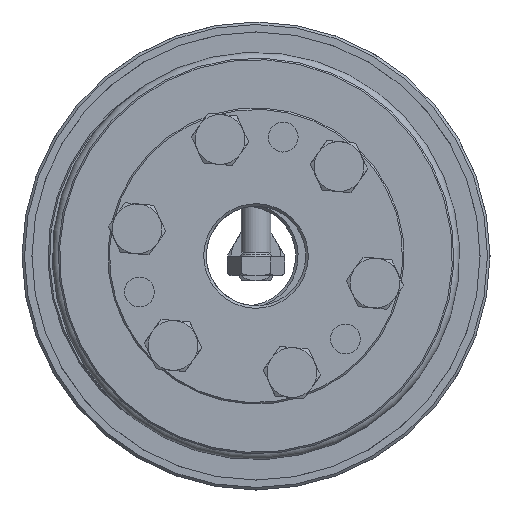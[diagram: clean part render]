
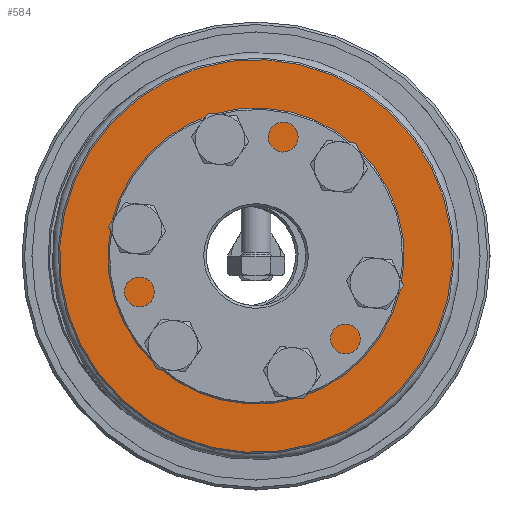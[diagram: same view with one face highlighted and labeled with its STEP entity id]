
A CAD part, left-side view. The second image highlights one B-rep face of the part: STEP entity #584.
In plain terms, the highlighted planar face has unit normal (-1, 0, 0) as drawn and (1, 0, 0) by its records, which use the part's own axes.
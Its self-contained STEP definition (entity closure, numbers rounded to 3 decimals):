
#584 = ADVANCED_FACE( 'NONE', ( #1039, #1040, #1041, #1042, #1043, #1044, #1045, #1046 ), #1047, .F. );
#1039 = FACE_OUTER_BOUND( '', #1805, .T. );
#1040 = FACE_BOUND( '', #1806, .T. );
#1041 = FACE_BOUND( '', #1807, .T. );
#1042 = FACE_BOUND( '', #1808, .T. );
#1043 = FACE_BOUND( '', #1809, .T. );
#1044 = FACE_BOUND( '', #1810, .T. );
#1045 = FACE_BOUND( '', #1811, .T. );
#1046 = FACE_BOUND( '', #1812, .T. );
#1047 = PLANE( '', #1813 );
#1805 = EDGE_LOOP( '', ( #2733 ) );
#1806 = EDGE_LOOP( '', ( #2734 ) );
#1807 = EDGE_LOOP( '', ( #2735 ) );
#1808 = EDGE_LOOP( '', ( #2736 ) );
#1809 = EDGE_LOOP( '', ( #2737 ) );
#1810 = EDGE_LOOP( '', ( #2738 ) );
#1811 = EDGE_LOOP( '', ( #2739 ) );
#1812 = EDGE_LOOP( '', ( #2740 ) );
#1813 = AXIS2_PLACEMENT_3D( '', #2741, #2742, #2743 );
#2733 = ORIENTED_EDGE( '', *, *, #4021, .T. );
#2734 = ORIENTED_EDGE( '', *, *, #4039, .T. );
#2735 = ORIENTED_EDGE( '', *, *, #4033, .F. );
#2736 = ORIENTED_EDGE( '', *, *, #4040, .F. );
#2737 = ORIENTED_EDGE( '', *, *, #4032, .F. );
#2738 = ORIENTED_EDGE( '', *, *, #4031, .F. );
#2739 = ORIENTED_EDGE( '', *, *, #4030, .F. );
#2740 = ORIENTED_EDGE( '', *, *, #4041, .F. );
#2741 = CARTESIAN_POINT( '', ( 20., 39.75, 0. ) );
#2742 = DIRECTION( '', ( -1., 0., 0. ) );
#2743 = DIRECTION( '', ( 0., 0., 1. ) );
#4021 = EDGE_CURVE( 'NONE', #4425, #4425, #4426, .T. );
#4030 = EDGE_CURVE( 'NONE', #4443, #4443, #4444, .T. );
#4031 = EDGE_CURVE( 'NONE', #4445, #4445, #4446, .T. );
#4032 = EDGE_CURVE( 'NONE', #4447, #4447, #4448, .T. );
#4033 = EDGE_CURVE( 'NONE', #4449, #4449, #4450, .T. );
#4039 = EDGE_CURVE( 'NONE', #4461, #4461, #4462, .T. );
#4040 = EDGE_CURVE( 'NONE', #4463, #4463, #4464, .T. );
#4041 = EDGE_CURVE( 'NONE', #4465, #4465, #4466, .T. );
#4425 = VERTEX_POINT( '', #5077 );
#4426 = CIRCLE( '', #5078, 39.45 );
#4443 = VERTEX_POINT( '', #5095 );
#4444 = CIRCLE( '', #5096, 3. );
#4445 = VERTEX_POINT( '', #5097 );
#4446 = CIRCLE( '', #5098, 3. );
#4447 = VERTEX_POINT( '', #5099 );
#4448 = CIRCLE( '', #5100, 3. );
#4449 = VERTEX_POINT( '', #5101 );
#4450 = CIRCLE( '', #5102, 3. );
#4461 = VERTEX_POINT( '', #5113 );
#4462 = CIRCLE( '', #5114, 20.835 );
#4463 = VERTEX_POINT( '', #5115 );
#4464 = CIRCLE( '', #5116, 3. );
#4465 = VERTEX_POINT( '', #5117 );
#4466 = CIRCLE( '', #5118, 3. );
#5077 = CARTESIAN_POINT( '', ( 20., 0., 39.45 ) );
#5078 = AXIS2_PLACEMENT_3D( '', #6091, #6092, #6093 );
#5095 = CARTESIAN_POINT( '', ( 20., -24.5, -3. ) );
#5096 = AXIS2_PLACEMENT_3D( '', #6118, #6119, #6120 );
#5097 = CARTESIAN_POINT( '', ( 20., -12.25, -24.218 ) );
#5098 = AXIS2_PLACEMENT_3D( '', #6121, #6122, #6123 );
#5099 = CARTESIAN_POINT( '', ( 20., 12.25, -24.218 ) );
#5100 = AXIS2_PLACEMENT_3D( '', #6124, #6125, #6126 );
#5101 = CARTESIAN_POINT( '', ( 20., -12.25, 18.218 ) );
#5102 = AXIS2_PLACEMENT_3D( '', #6127, #6128, #6129 );
#5113 = CARTESIAN_POINT( '', ( 20., 0., 20.835 ) );
#5114 = AXIS2_PLACEMENT_3D( '', #6145, #6146, #6147 );
#5115 = CARTESIAN_POINT( '', ( 20., 24.5, -3. ) );
#5116 = AXIS2_PLACEMENT_3D( '', #6148, #6149, #6150 );
#5117 = CARTESIAN_POINT( '', ( 20., 12.25, 18.218 ) );
#5118 = AXIS2_PLACEMENT_3D( '', #6151, #6152, #6153 );
#6091 = CARTESIAN_POINT( '', ( 20., 0., 0. ) );
#6092 = DIRECTION( '', ( 1., 0., 0. ) );
#6093 = DIRECTION( '', ( 0., 0., 1. ) );
#6118 = CARTESIAN_POINT( '', ( 20., -24.5, 0. ) );
#6119 = DIRECTION( '', ( 1., 0., 0. ) );
#6120 = DIRECTION( '', ( 0., 0., -1. ) );
#6121 = CARTESIAN_POINT( '', ( 20., -12.25, -21.218 ) );
#6122 = DIRECTION( '', ( 1., 0., 0. ) );
#6123 = DIRECTION( '', ( 0., 0., -1. ) );
#6124 = CARTESIAN_POINT( '', ( 20., 12.25, -21.218 ) );
#6125 = DIRECTION( '', ( 1., 0., 0. ) );
#6126 = DIRECTION( '', ( 0., 0., -1. ) );
#6127 = CARTESIAN_POINT( '', ( 20., -12.25, 21.218 ) );
#6128 = DIRECTION( '', ( 1., 0., 0. ) );
#6129 = DIRECTION( '', ( 0., 0., -1. ) );
#6145 = CARTESIAN_POINT( '', ( 20., 0., 0. ) );
#6146 = DIRECTION( '', ( -1., 0., 0. ) );
#6147 = DIRECTION( '', ( 0., 0., 1. ) );
#6148 = CARTESIAN_POINT( '', ( 20., 24.5, 0. ) );
#6149 = DIRECTION( '', ( 1., 0., 0. ) );
#6150 = DIRECTION( '', ( 0., 0., -1. ) );
#6151 = CARTESIAN_POINT( '', ( 20., 12.25, 21.218 ) );
#6152 = DIRECTION( '', ( 1., 0., 0. ) );
#6153 = DIRECTION( '', ( 0., 0., -1. ) );
